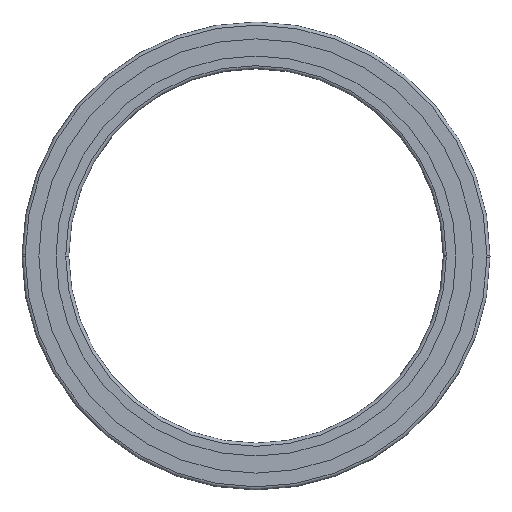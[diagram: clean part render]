
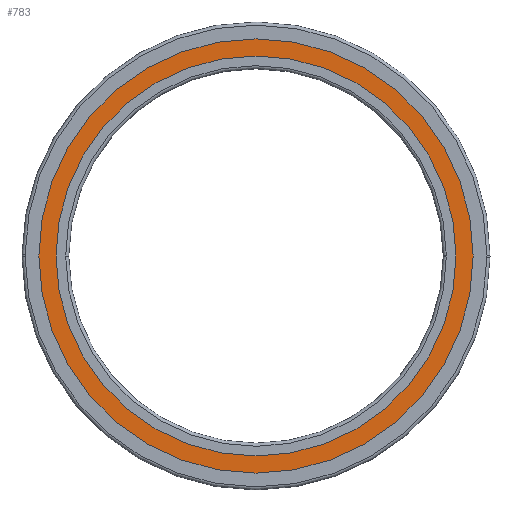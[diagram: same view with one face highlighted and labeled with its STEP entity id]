
A CAD part, front view. The second image highlights one B-rep face of the part: STEP entity #783.
In plain terms, the highlighted planar face has unit normal (0, -1, 0).
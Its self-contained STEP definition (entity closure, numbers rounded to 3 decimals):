
#319=EDGE_CURVE('',#353,#779,#857,.T.);
#353=VERTEX_POINT('',#893);
#553=EDGE_CURVE('',#729,#619,#1122,.T.);
#619=VERTEX_POINT('',#1198);
#693=EDGE_CURVE('',#619,#729,#1277,.T.);
#695=EDGE_CURVE('',#779,#353,#1279,.T.);
#729=VERTEX_POINT('',#1318);
#779=VERTEX_POINT('',#1375);
#783=ADVANCED_FACE('',(#1379,#1380),#1381,.F.);
#857=CIRCLE('',#1460,69.6);
#893=CARTESIAN_POINT('',(69.6,0.0,0.0));
#1122=CIRCLE('',#1786,64.1);
#1198=CARTESIAN_POINT('',(-64.1,0.0,0.0));
#1277=CIRCLE('',#1980,64.1);
#1279=CIRCLE('',#1983,69.6);
#1318=CARTESIAN_POINT('',(64.1,0.0,0.0));
#1375=CARTESIAN_POINT('',(-69.6,0.0,0.));
#1379=FACE_OUTER_BOUND('',#2104,.T.);
#1380=FACE_BOUND('',#2105,.T.);
#1381=PLANE('',#2106);
#1460=AXIS2_PLACEMENT_3D('',#2168,#2169,#2170);
#1786=AXIS2_PLACEMENT_3D('',#2545,#2546,#2547);
#1980=AXIS2_PLACEMENT_3D('',#2744,#2745,#2746);
#1983=AXIS2_PLACEMENT_3D('',#2747,#2748,#2749);
#2104=EDGE_LOOP('',(#2885,#2886));
#2105=EDGE_LOOP('',(#2887,#2888));
#2106=AXIS2_PLACEMENT_3D('',#2889,#2890,#2891);
#2168=CARTESIAN_POINT('',(0.0,0.0,0.0));
#2169=DIRECTION('',(-0.0,1.0,0.0));
#2170=DIRECTION('',(1.0,0.0,0.0));
#2545=CARTESIAN_POINT('',(0.0,0.0,0.0));
#2546=DIRECTION('',(0.0,-1.0,0.0));
#2547=DIRECTION('',(1.0,0.0,0.0));
#2744=CARTESIAN_POINT('',(0.0,0.0,0.0));
#2745=DIRECTION('',(0.0,-1.0,0.0));
#2746=DIRECTION('',(-1.0,0.0,0.0));
#2747=CARTESIAN_POINT('',(0.0,0.0,0.0));
#2748=DIRECTION('',(0.0,1.0,0.0));
#2749=DIRECTION('',(-1.0,0.0,0.0));
#2885=ORIENTED_EDGE('',*,*,#695,.F.);
#2886=ORIENTED_EDGE('',*,*,#319,.F.);
#2887=ORIENTED_EDGE('',*,*,#693,.F.);
#2888=ORIENTED_EDGE('',*,*,#553,.F.);
#2889=CARTESIAN_POINT('',(0.0,0.0,0.0));
#2890=DIRECTION('',(0.0,1.0,0.0));
#2891=DIRECTION('',(1.0,0.0,-0.0));
